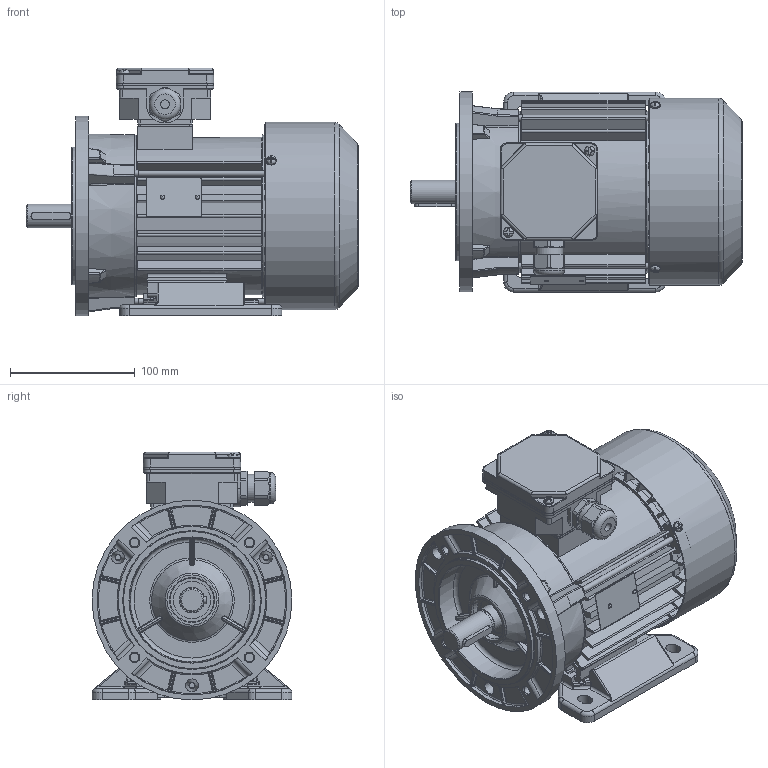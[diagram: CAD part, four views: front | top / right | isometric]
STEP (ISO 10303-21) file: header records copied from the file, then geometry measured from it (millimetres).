
FILE_DESCRIPTION( ( 'Unknown' ), '1' );
FILE_NAME( 'G:/Poczta Tk-1/STP/w.m.80/Sh80/SLh80-.A1.stp', 'Unknown', ( 'K. Szlosek' ), ( 'BESEL S.A.' ), 'PSStep 17.0.49', 'Unknown', ' ' );
FILE_SCHEMA( ( 'AUTOMOTIVE_DESIGN { 1 0 10303 214 1 1 1 1 }' ) );
Length unit declared in the file: millimetre
Products named in the file (30): skrznka zaciskowa trójfazowa ; K4-2820 Uszczelka nr 2 Sh71,80; Dławnica M20x1,5; K2-0859 Podstawa skrzynki 6-cio zaciskowej; K2-0860 Pokrywka skrzynki zaciskowej; Assem1; K1-1257 Kadłub S(E,M)h80-A i B; K2-2027 Tarcza łożyskowa P S(E,M)h80-.A,C; K4-2320 Uszczelka nr 1 Sh71,80; Wkręt samogwintujący M4x16; Nitokołek A 2x6; Wkręt samogwintujący M4x8; K3-7038 wał standard Sh80-A; Wpust A6x6x32; K3-4025 Przewietrznik Sg,h80; K4-4489 Osłona przewietrznika Sh80,90-A,C; K1-1259 Tarcza kołnierzowa 80 B14_1 ; Tabliczka znamionowa 32x44; Łożysko 6204; Śruba ściągająca E_M5x130; K1-0437 Łapa Sh80-.. 
Assembly tree (45 placements, depth 3):
  Assem1
    K1-1257 Kadłub S(E,M)h80-A i B
    K2-2027 Tarcza łożyskowa P S(E,M)h80-.A,C
    K4-2320 Uszczelka nr 1 Sh71,80
    Wkręt samogwintujący M4x16  x2
    Nitokołek A 2x6  x2
    Wkręt samogwintujący M4x8  x3
    K3-7038 wał standard Sh80-A
    Wpust A6x6x32
    K3-4025 Przewietrznik Sg,h80
    K4-4489 Osłona przewietrznika Sh80,90-A,C
    K1-1259 Tarcza kołnierzowa 80 B14_1 
    Tabliczka znamionowa 32x44
    Łożysko 6204  x2
    Łożysko 6204  x2
    Łożysko 6204  x2
    Łożysko 6204  x2
    Łożysko 6204  x2
    Łożysko 6204  x2
    Łożysko 6204  x2
    Łożysko 6204  x2
    Łożysko 6204  x2
    Łożysko 6204  x2
    Śruba ściągająca E_M5x130  x3
    K1-0437 Łapa Sh80-.. 
    skrznka zaciskowa trójfazowa 
      K4-2820 Uszczelka nr 2 Sh71,80
      Dławnica M20x1,5
      K2-0859 Podstawa skrzynki 6-cio zaciskowej
      K2-0860 Pokrywka skrzynki zaciskowej
Bounding box: 265.8 x 160 x 198.5 mm (x, y, z)
Volume: 1041249.7 mm3; surface area: 562397.7 mm2
Topology: 44 solids, 60 shells, 3041 faces, 8177 edges, 5193 vertices
Faces by surface type: plane 1323, cylinder 935, bspline 411, torus 182, cone 148, sphere 42
Full cylindrical faces by diameter (mm): 2 x2, 2.4 x2, 3 x1, 3.7 x11, 4 x5, 4.2 x3, 4.5 x1, 4.6 x3, 4.8 x4, 5 x7, 5.5 x3, 6.5 x4, 6.8 x4, 7 x1, 8 x9, 18.376 x1, 18.38 x1, 18.6 x1, 19 x1, 19.3 x1, 19.5 x2, 19.9 x1, 20 x5, 20.3 x2, 20.4 x4, 22.3 x1, 25 x1, 25.5 x1, 25.65 x1, 26 x3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
Entity records: 172727 total; most frequent: CARTESIAN_POINT 80324, ORIENTED_EDGE 14768, DIRECTION 13640, EDGE_CURVE 7384, AXIS2_PLACEMENT_3D 5079, VERTEX_POINT 4858, LINE 3482, VECTOR 3482
